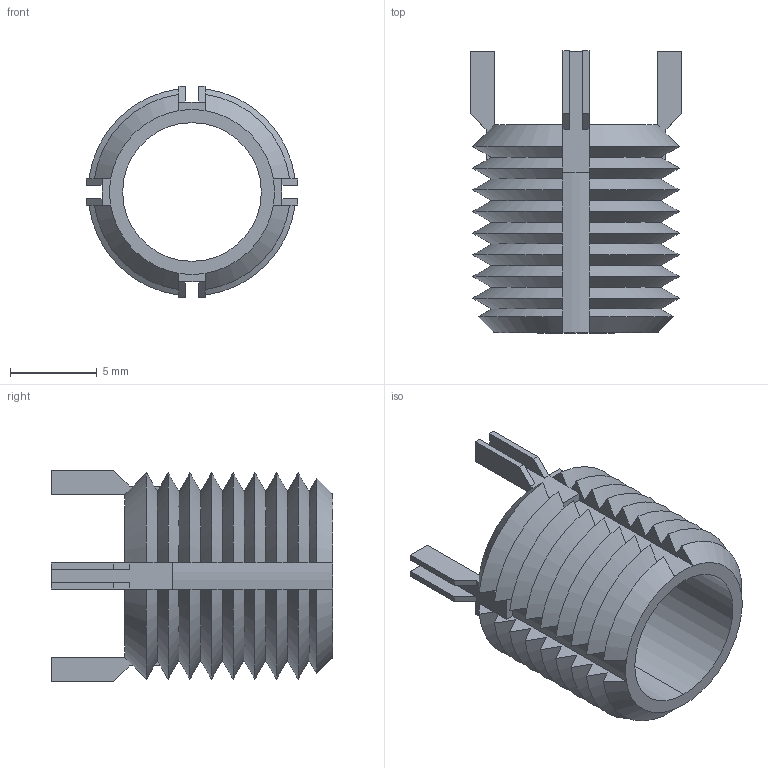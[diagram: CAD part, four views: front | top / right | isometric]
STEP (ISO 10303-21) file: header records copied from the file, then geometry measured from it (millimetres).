
FILE_DESCRIPTION (( 'STEP AP203' ), '1' );
FILE_NAME ('TR1520.65953.step', '2023-03-31T08:48:17', ( '' ), ( '' ), 'SwSTEP 2.0', 'SolidWorks 2019', '' );
FILE_SCHEMA (( 'CONFIG_CONTROL_DESIGN' ));
Length unit declared in the file: millimetre
Products named in the file (1): TR1520.65953
Bounding box: 12.18 x 16.25 x 12.18 mm (x, y, z)
Volume: 492.1 mm3; surface area: 1246.7 mm2
Topology: 1 solids, 1 shells, 152 faces, 410 edges, 260 vertices
Faces by surface type: plane 74, cone 72, cylinder 6
Entity records: 4987 total; most frequent: CARTESIAN_POINT 1363, ORIENTED_EDGE 820, DIRECTION 636, EDGE_CURVE 410, VERTEX_POINT 260, AXIS2_PLACEMENT_3D 241, B_SPLINE_CURVE_WITH_KNOTS 168, LINE 154
